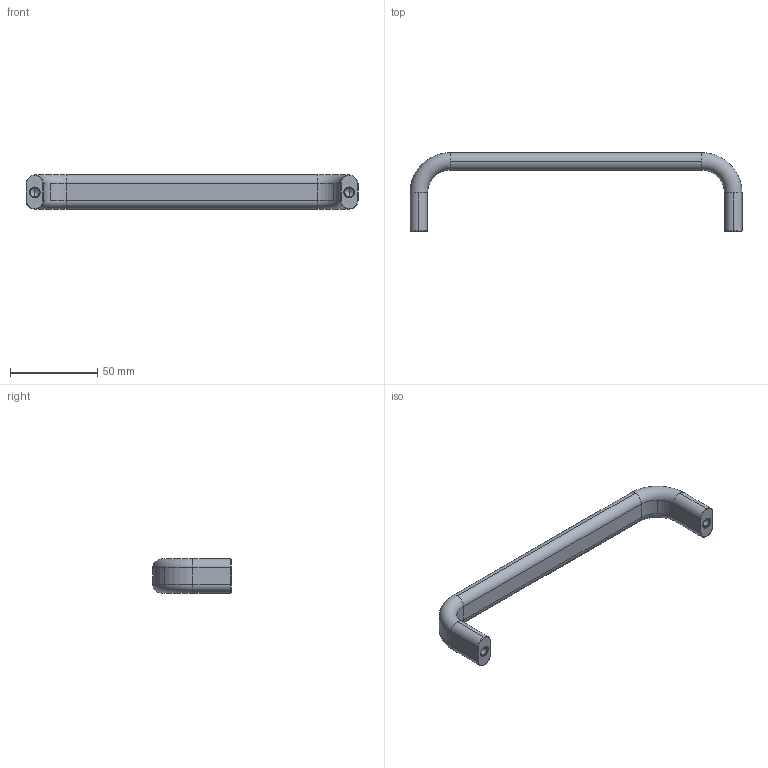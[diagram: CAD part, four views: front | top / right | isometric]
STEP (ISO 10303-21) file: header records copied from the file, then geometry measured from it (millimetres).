
FILE_DESCRIPTION((''),'2;1');
FILE_NAME('c:\wix\Knobs\7892\7892.W118.stp','2003-04-04T16:42:12',('joanc'),(''),'Autodesk Inventor (tm) 5.3','Autodesk Inventor (tm) 5.3','');
FILE_SCHEMA(('CONFIG_CONTROL_DESIGN'));
Length unit declared in the file: millimetre
Products named in the file (1): 7892.W118
Bounding box: 190 x 45 x 19.5 mm (x, y, z)
Volume: 41745.5 mm3; surface area: 13194.7 mm2
Topology: 1 solids, 1 shells, 74 faces, 172 edges, 98 vertices
Faces by surface type: cylinder 38, torus 16, cone 12, plane 8
Entity records: 2175 total; most frequent: DIRECTION 422, CARTESIAN_POINT 341, ORIENTED_EDGE 336, AXIS2_PLACEMENT_3D 179, EDGE_CURVE 168, CIRCLE 104, VERTEX_POINT 98, EDGE_LOOP 76
